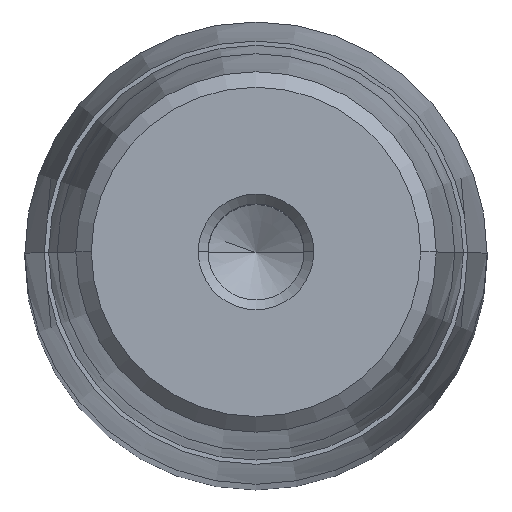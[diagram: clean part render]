
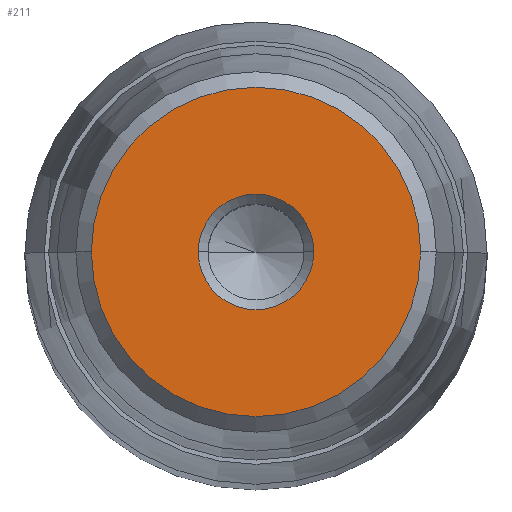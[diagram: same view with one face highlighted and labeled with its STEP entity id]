
A CAD part, top view. The second image highlights one B-rep face of the part: STEP entity #211.
In plain terms, the highlighted planar face has unit normal (0, 0, 1).
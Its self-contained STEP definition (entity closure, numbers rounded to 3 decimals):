
#136=CARTESIAN_POINT('Axis2P3D Location',(0.,0.,48.)) ;
#140=CARTESIAN_POINT('Vertex',(-4.,0.,48.)) ;
#142=CARTESIAN_POINT('Vertex',(4.,0.,48.)) ;
#179=CARTESIAN_POINT('Axis2P3D Location',(0.,4.,48.)) ;
#184=CARTESIAN_POINT('Axis2P3D Location',(0.,0.,48.)) ;
#188=CARTESIAN_POINT('Vertex',(-11.4,0.,48.)) ;
#190=CARTESIAN_POINT('Vertex',(11.4,0.,48.)) ;
#193=CARTESIAN_POINT('Axis2P3D Location',(0.,0.,48.)) ;
#202=CARTESIAN_POINT('Axis2P3D Location',(0.,0.,48.)) ;
#137=DIRECTION('Axis2P3D Direction',(0.,-0.,1.)) ;
#180=DIRECTION('Axis2P3D Direction',(0.,0.,-1.)) ;
#181=DIRECTION('Axis2P3D XDirection',(-1.,0.,0.)) ;
#185=DIRECTION('Axis2P3D Direction',(0.,0.,-1.)) ;
#194=DIRECTION('Axis2P3D Direction',(0.,0.,-1.)) ;
#203=DIRECTION('Axis2P3D Direction',(0.,0.,-1.)) ;
#138=AXIS2_PLACEMENT_3D('Circle Axis2P3D',#136,#137,$) ;
#182=AXIS2_PLACEMENT_3D('Plane Axis2P3D',#179,#180,#181) ;
#186=AXIS2_PLACEMENT_3D('Circle Axis2P3D',#184,#185,$) ;
#195=AXIS2_PLACEMENT_3D('Circle Axis2P3D',#193,#194,$) ;
#204=AXIS2_PLACEMENT_3D('Circle Axis2P3D',#202,#203,$) ;
#199=ORIENTED_EDGE('',*,*,#192,.F.) ;
#200=ORIENTED_EDGE('',*,*,#197,.F.) ;
#208=ORIENTED_EDGE('',*,*,#206,.T.) ;
#209=ORIENTED_EDGE('',*,*,#144,.T.) ;
#210=FACE_BOUND('',#207,.T.) ;
#211=ADVANCED_FACE('722-32x250x283',(#201,#210),#183,.F.) ;
#139=CIRCLE('generated circle',#138,4.) ;
#187=CIRCLE('generated circle',#186,11.4) ;
#196=CIRCLE('generated circle',#195,11.4) ;
#205=CIRCLE('generated circle',#204,4.) ;
#144=EDGE_CURVE('',#141,#143,#139,.F.) ;
#192=EDGE_CURVE('',#189,#191,#187,.T.) ;
#197=EDGE_CURVE('',#191,#189,#196,.T.) ;
#206=EDGE_CURVE('',#143,#141,#205,.T.) ;
#198=EDGE_LOOP('',(#199,#200)) ;
#207=EDGE_LOOP('',(#208,#209)) ;
#201=FACE_OUTER_BOUND('',#198,.T.) ;
#183=PLANE('Plane',#182) ;
#141=VERTEX_POINT('',#140) ;
#143=VERTEX_POINT('',#142) ;
#189=VERTEX_POINT('',#188) ;
#191=VERTEX_POINT('',#190) ;
